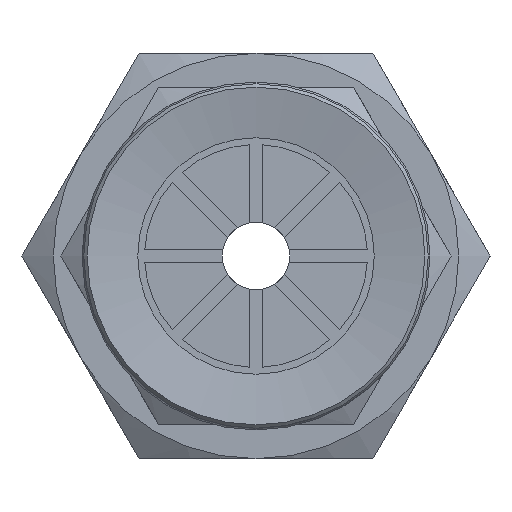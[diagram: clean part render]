
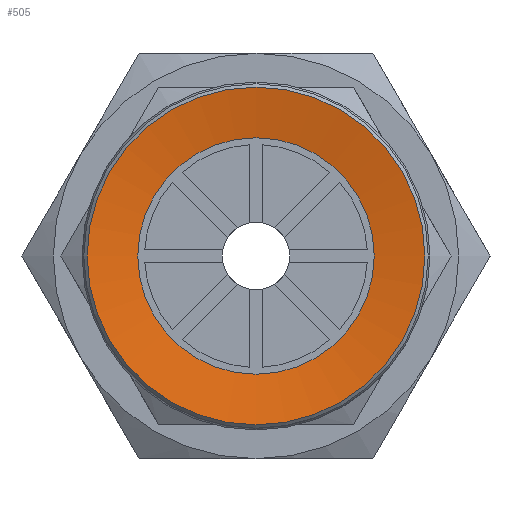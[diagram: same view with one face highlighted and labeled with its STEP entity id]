
A CAD part, front view. The second image highlights one B-rep face of the part: STEP entity #505.
In plain terms, the highlighted conical face has half-angle 80 degrees and reference radius 5 mm.
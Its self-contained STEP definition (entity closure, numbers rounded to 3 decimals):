
#505=ADVANCED_FACE('',(#778,#779),#780,.F.);
#778=FACE_BOUND('',#1079,.T.);
#779=FACE_OUTER_BOUND('',#1080,.T.);
#780=CONICAL_SURFACE('',#1081,5.0,1.396);
#1079=EDGE_LOOP('',(#1863));
#1080=EDGE_LOOP('',(#1864));
#1081=AXIS2_PLACEMENT_3D('',#1865,#1866,#1867);
#1863=ORIENTED_EDGE('',*,*,#2210,.T.);
#1864=ORIENTED_EDGE('',*,*,#2211,.F.);
#1865=CARTESIAN_POINT('',(0.0,0.,0.));
#1866=DIRECTION('',(0.0,0.,-1.0));
#1867=DIRECTION('',(0.0,1.0,0.));
#2210=EDGE_CURVE('',#2613,#2613,#2614,.T.);
#2211=EDGE_CURVE('',#2615,#2615,#2616,.T.);
#2613=VERTEX_POINT('',#3396);
#2614=CIRCLE('',#3397,3.5);
#2615=VERTEX_POINT('',#3398);
#2616=CIRCLE('',#3399,5.0);
#3396=CARTESIAN_POINT('',(0.0,-3.5,0.264));
#3397=AXIS2_PLACEMENT_3D('',#3800,#3801,#3802);
#3398=CARTESIAN_POINT('',(0.0,-5.0,0.));
#3399=AXIS2_PLACEMENT_3D('',#3803,#3804,#3805);
#3800=CARTESIAN_POINT('',(0.0,0.,0.264));
#3801=DIRECTION('',(0.0,0.,1.0));
#3802=DIRECTION('',(0.0,-1.0,0.));
#3803=CARTESIAN_POINT('',(0.0,0.,0.));
#3804=DIRECTION('',(0.0,0.,1.0));
#3805=DIRECTION('',(0.0,-1.0,0.));
